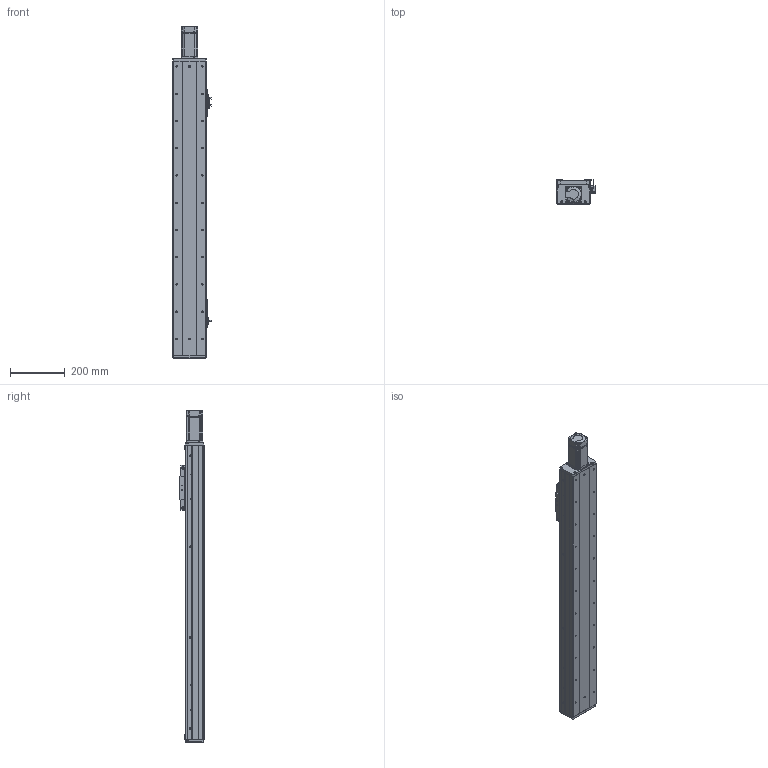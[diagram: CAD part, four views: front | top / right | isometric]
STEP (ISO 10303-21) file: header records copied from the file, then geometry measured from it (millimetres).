
FILE_DESCRIPTION (( 'STEP AP203' ), '1' );
FILE_NAME ('RY120F-L1620-300-MK.SLDASM_800.step', '2021-03-02T06:02:20', ( '盈信电脑' ), ( '东莞市道滘镇水果街19号' ), 'SwSTEP 2.0', 'SolidWorks 2012', '' );
FILE_SCHEMA (( 'CONFIG_CONTROL_DESIGN' ));
Length unit declared in the file: millimetre
Products named in the file (19): 滅袉蝶18-28; RY120F-L1620-300-MK.SLDASM_800; RY80俋离覜茼え; RY120F-臏賑輸 16蹟譫; FY120F詩湍揤踡輸; 672嫖萇羲壽假蚾釱; RY120F-詩湍幗謫粣; RY120F綴裔啣(臏璃ㄘ; 覜茼ん672; RY120F祥凄詩滅鳥裔; 侂狟400W侜督萇儂; 滅袉蝶18-24; RY120F眻蟀ヶ裔啣; 15; RY120F滅鳥詩湍-300-MK_800; 絳寢賑輸EGH15; RY120F-臏賑輸奻釱; RY120F-300-倰第菁釱_800; RY120F-300-倰第裔啣_800
Assembly tree (25 placements, depth 3):
  RY120F-L1620-300-MK.SLDASM_800
    RY120F-300-倰第菁釱_800
    RY120F-300-倰第裔啣_800  x2
    RY120F滅鳥詩湍-300-MK_800
    絳寢賑輸EGH15  x2
    RY120F-臏賑輸奻釱
    侂狟400W侜督萇儂
      15
    RY120F眻蟀ヶ裔啣
    RY120F祥凄詩滅鳥裔
    滅袉蝶18-24
    RY120F綴裔啣(臏璃ㄘ
    RY120F-詩湍幗謫粣
    覜茼ん672  x3
    672嫖萇羲壽假蚾釱  x2
    RY80俋离覜茼え
    FY120F詩湍揤踡輸  x2
    RY120F-臏賑輸 16蹟譫
    滅袉蝶18-28  x2
Bounding box: 140.35 x 89 x 1218.5 mm (x, y, z)
Volume: 3748730.9 mm3; surface area: 1330143.2 mm2
Topology: 24 solids, 24 shells, 2177 faces, 5813 edges, 3729 vertices
Faces by surface type: cylinder 978, plane 966, cone 215, bspline 18
Entity records: 58090 total; most frequent: CARTESIAN_POINT 10365, DIRECTION 9879, ORIENTED_EDGE 9214, EDGE_CURVE 4607, AXIS2_PLACEMENT_3D 3577, VERTEX_POINT 3013, LINE 2725, VECTOR 2725
